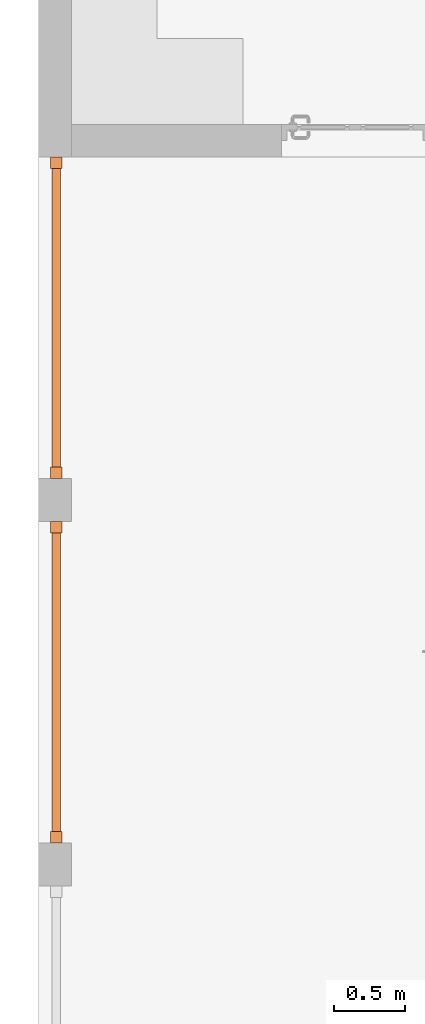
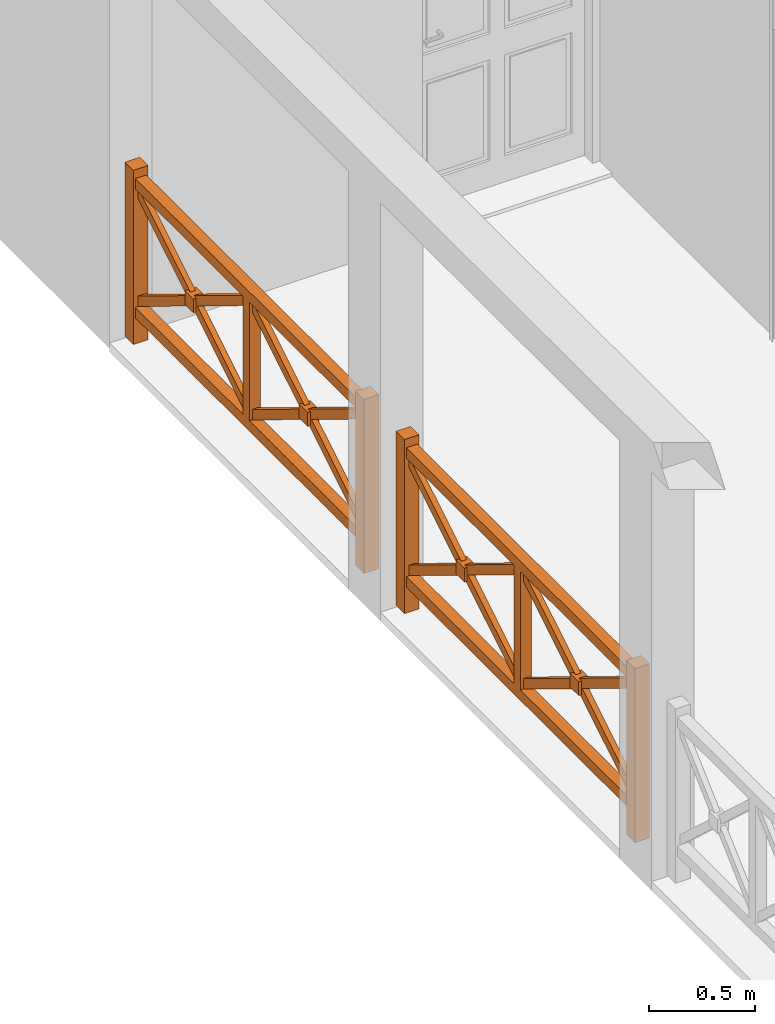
# One storey, part 12 of 17: 2 proxies.
"""IFC2X3 building model written with IfcOpenShell, lengths in metres."""

from ifc_helpers import new_model, entity, si_unit, converted_unit, derived_unit, money_unit, direction, frame, origin_with_axes, place, context, subcontext, project, spatial, faceted_brep, source, transform, mapped, type_object, element, save


model = new_model("IFC2X3")

# Units and contexts
model_context = context("Model", 3, precision=1e-05, world=origin_with_axes(), true_north=direction((0.0, 1.0)))
body_context = subcontext(model_context, "Body", "Model", "MODEL_VIEW")
ifc_project = project(units=[si_unit("LENGTHUNIT", "METRE"), si_unit("AREAUNIT", "SQUARE_METRE"), si_unit("VOLUMEUNIT", "CUBIC_METRE"), converted_unit("PLANEANGLEUNIT", "DEGREE", entity("IfcPlaneAngleMeasure", 0.0174532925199), si_unit("PLANEANGLEUNIT", "RADIAN"), dimensions=[0, 0, 0, 0, 0, 0, 0]), si_unit("SOLIDANGLEUNIT", "STERADIAN"), money_unit("CHF"), converted_unit("TIMEUNIT", "Year", entity("IfcTimeMeasure", 31556926.0), si_unit("TIMEUNIT", "SECOND"), dimensions=[0, 0, 1, 0, 0, 0, 0]), si_unit("MASSUNIT", "GRAM", prefix="KILO"), si_unit("THERMODYNAMICTEMPERATUREUNIT", "DEGREE_CELSIUS"), si_unit("LUMINOUSINTENSITYUNIT", "LUMEN"), si_unit("ENERGYUNIT", "JOULE", prefix="MEGA"), derived_unit("THERMALCONDUCTANCEUNIT", [(si_unit("POWERUNIT", "WATT"), 1), (si_unit("LENGTHUNIT", "METRE"), -1), (si_unit("THERMODYNAMICTEMPERATUREUNIT", "KELVIN"), -1)]), derived_unit("SPECIFICHEATCAPACITYUNIT", [(si_unit("ENERGYUNIT", "JOULE"), 1), (si_unit("MASSUNIT", "GRAM", prefix="KILO"), -1), (si_unit("THERMODYNAMICTEMPERATUREUNIT", "KELVIN"), -1)]), derived_unit("MASSDENSITYUNIT", [(si_unit("MASSUNIT", "GRAM", prefix="KILO"), 1), (si_unit("VOLUMEUNIT", "CUBIC_METRE"), -1)])], contexts=[model_context])

# Site, building, storey
site_placement = place(None, origin_with_axes())
site = spatial("IfcSite", under=ifc_project, at=site_placement, Name="Site", CompositionType="ELEMENT")
building_placement = place(site_placement, origin_with_axes())
building = spatial("IfcBuilding", under=site, at=building_placement, Name="Bâtiment", CompositionType="ELEMENT")
storey_placement = place(building_placement, frame((0.0, 0.0, 3.0), z_axis=(0.0, 0.0, 1.0), x_axis=(1.0, 0.0, 0.0)))
storey = spatial("IfcBuildingStorey", under=building, at=storey_placement, Name="RDJ", CompositionType="ELEMENT", Elevation=3.0)

# Proxies
building_element_proxy_type = type_object("IfcBuildingElementProxyType", PredefinedType="NOTDEFINED")
shared_shape = source(origin_with_axes(), body_context, "Body", "Brep", [
    faceted_brep([(1.04480794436, -0.04, 0.0), (1.04480794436, 0.04, 0.0), (1.12480794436, 0.04, 0.0), (1.12480794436, -0.04, 0.0), (1.04480794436, -0.04, 1.0), (1.04480794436, 0.04, 1.0), (1.12480794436, 0.04, 1.0), (1.12480794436, -0.04, 1.0)], [[[0, 1, 2, 3]], [[0, 4, 5, 1]], [[1, 5, 6, 2]], [[2, 6, 7, 3]], [[3, 7, 4, 0]], [[7, 6, 5, 4]]]),
    faceted_brep([(-1.12480794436, -0.04, 0.0), (-1.12480794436, 0.04, 0.0), (-1.04480794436, 0.04, 0.0), (-1.04480794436, -0.04, 0.0), (-1.12480794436, -0.04, 1.0), (-1.12480794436, 0.04, 1.0), (-1.04480794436, 0.04, 1.0), (-1.04480794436, -0.04, 1.0)], [[[0, 1, 2, 3]], [[0, 4, 5, 1]], [[1, 5, 6, 2]], [[2, 6, 7, 3]], [[3, 7, 4, 0]], [[7, 6, 5, 4]]]),
    faceted_brep([(-0.03, -0.03, 0.21), (-0.03, 0.03, 0.21), (0.03, 0.03, 0.21), (0.03, -0.03, 0.21), (-0.03, -0.03, 0.89), (-0.03, 0.03, 0.89), (0.03, 0.03, 0.89), (0.03, -0.03, 0.89)], [[[0, 1, 2, 3]], [[0, 4, 5, 1]], [[1, 5, 6, 2]], [[2, 6, 7, 3]], [[3, 7, 4, 0]], [[7, 6, 5, 4]]]),
    faceted_brep([(-1.04480794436, -0.03, 0.89), (-1.04480794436, 0.03, 0.89), (1.04480794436, 0.03, 0.89), (1.04480794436, -0.03, 0.89), (-1.04480794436, -0.03, 0.95), (-1.04480794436, 0.03, 0.95), (1.04480794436, 0.03, 0.95), (1.04480794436, -0.03, 0.95)], [[[0, 1, 2, 3]], [[0, 4, 5, 1]], [[1, 5, 6, 2]], [[2, 6, 7, 3]], [[3, 7, 4, 0]], [[7, 6, 5, 4]]]),
    faceted_brep([(-1.04480794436, -0.03, 0.15), (-1.04480794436, 0.03, 0.15), (1.04480794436, 0.03, 0.15), (1.04480794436, -0.03, 0.15), (-1.04480794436, -0.03, 0.21), (-1.04480794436, 0.03, 0.21), (1.04480794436, 0.03, 0.21), (1.04480794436, -0.03, 0.21)], [[[0, 1, 2, 3]], [[0, 4, 5, 1]], [[1, 5, 6, 2]], [[2, 6, 7, 3]], [[3, 7, 4, 0]], [[7, 6, 5, 4]]]),
    faceted_brep([(1.04480794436, 0.015, 0.21), (1.04480794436, -0.015, 0.21), (0.03, -0.015, 0.83), (0.03, 0.015, 0.83), (1.04480794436, 0.015, 0.27), (1.04480794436, -0.015, 0.27), (0.03, -0.015, 0.89), (0.03, 0.015, 0.89)], [[[0, 1, 2, 3]], [[4, 5, 1, 0]], [[1, 5, 6, 2]], [[3, 2, 6, 7]], [[0, 3, 7, 4]], [[7, 6, 5, 4]]]),
    faceted_brep([(1.04480794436, 0.015, 0.89), (1.04480794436, -0.015, 0.89), (1.04480794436, -0.015, 0.83), (1.04480794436, 0.015, 0.83), (0.03, 0.015, 0.27), (0.03, -0.015, 0.27), (0.03, -0.015, 0.21), (0.03, 0.015, 0.21)], [[[0, 1, 2, 3]], [[4, 5, 1, 0]], [[1, 5, 6, 2]], [[3, 2, 6, 7]], [[0, 3, 7, 4]], [[7, 6, 5, 4]]]),
    faceted_brep([(0.49740397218, -0.03, 0.51), (0.49740397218, 0.03, 0.51), (0.57740397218, 0.03, 0.51), (0.57740397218, -0.03, 0.51), (0.49740397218, -0.03, 0.59), (0.49740397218, 0.03, 0.59), (0.57740397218, 0.03, 0.59), (0.57740397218, -0.03, 0.59)], [[[0, 1, 2, 3]], [[0, 4, 5, 1]], [[1, 5, 6, 2]], [[2, 6, 7, 3]], [[3, 7, 4, 0]], [[7, 6, 5, 4]]]),
    faceted_brep([(-0.03, 0.015, 0.21), (-0.03, -0.015, 0.21), (-1.04480794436, -0.015, 0.83), (-1.04480794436, 0.015, 0.83), (-0.03, 0.015, 0.27), (-0.03, -0.015, 0.27), (-1.04480794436, -0.015, 0.89), (-1.04480794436, 0.015, 0.89)], [[[0, 1, 2, 3]], [[4, 5, 1, 0]], [[1, 5, 6, 2]], [[3, 2, 6, 7]], [[0, 3, 7, 4]], [[7, 6, 5, 4]]]),
    faceted_brep([(-0.03, 0.015, 0.89), (-0.03, -0.015, 0.89), (-0.03, -0.015, 0.83), (-0.03, 0.015, 0.83), (-1.04480794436, 0.015, 0.27), (-1.04480794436, -0.015, 0.27), (-1.04480794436, -0.015, 0.21), (-1.04480794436, 0.015, 0.21)], [[[0, 1, 2, 3]], [[4, 5, 1, 0]], [[1, 5, 6, 2]], [[3, 2, 6, 7]], [[0, 3, 7, 4]], [[7, 6, 5, 4]]]),
    faceted_brep([(-0.57740397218, -0.03, 0.51), (-0.57740397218, 0.03, 0.51), (-0.49740397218, 0.03, 0.51), (-0.49740397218, -0.03, 0.51), (-0.57740397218, -0.03, 0.59), (-0.57740397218, 0.03, 0.59), (-0.49740397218, 0.03, 0.59), (-0.49740397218, -0.03, 0.59)], [[[0, 1, 2, 3]], [[0, 4, 5, 1]], [[1, 5, 6, 2]], [[2, 6, 7, 3]], [[3, 7, 4, 0]], [[7, 6, 5, 4]]]),
])
for number, where, z_axis, x_axis, name in (
    (1, (84.907056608, 10.4759172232, -3.00999998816), (0.0, 0.0, 1.0), (0.0, 1.0, 0.0), "MOB-1224"),
    (2, (84.907056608, 13.0255331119, -3.00999998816), (0.0, 0.0, 1.0), (0.0, 1.0, 0.0), "MOB-1224"),
):
    element("IfcBuildingElementProxy", number, at=place(storey_placement, frame(where, z_axis=z_axis, x_axis=x_axis)), inside=storey, type_object=building_element_proxy_type, Name=name, context=body_context, shape_type="MappedRepresentation", body=[
        mapped(shared_shape, transform((0.0, 0.0, 0.0))),
    ])

save(model, "model.ifc")
